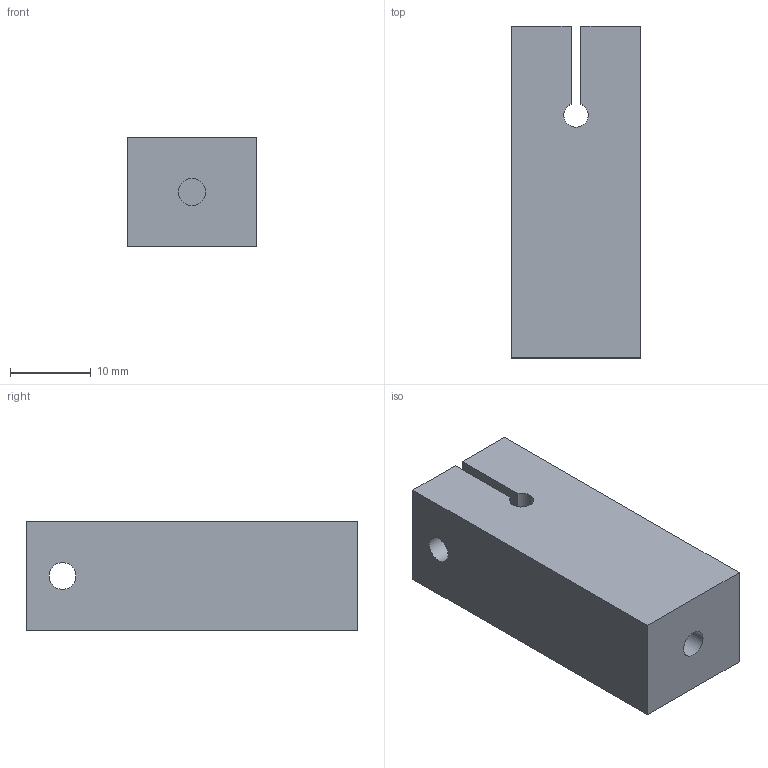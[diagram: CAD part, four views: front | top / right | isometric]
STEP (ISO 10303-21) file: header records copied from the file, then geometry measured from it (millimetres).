
FILE_DESCRIPTION(('Open CASCADE Model'),'2;1');
FILE_NAME('Open CASCADE Shape Model','2026-10-05T13:03:08',('Author'),( 'Open CASCADE'),'Open CASCADE STEP processor 7.9','Open CASCADE 7.9' ,'Unknown');
FILE_SCHEMA(('AUTOMOTIVE_DESIGN { 1 0 10303 214 1 1 1 1 }'));
Length unit declared in the file: millimetre
Products named in the file (1): Open CASCADE STEP translator 7.9 29
Bounding box: 16 x 41 x 13.5 mm (x, y, z)
Volume: 8297.8 mm3; surface area: 3501.1 mm2
Topology: 1 solids, 1 shells, 14 faces, 33 edges, 22 vertices
Faces by surface type: plane 10, cylinder 4
Full cylindrical faces by diameter (mm): 3.3 x2, 3.4 x1
Entity records: 855 total; most frequent: CARTESIAN_POINT 142, DIRECTION 136, LINE 83, VECTOR 83, ORIENTED_EDGE 66, PCURVE 66, DEFINITIONAL_REPRESENTATION 66, EDGE_CURVE 33
